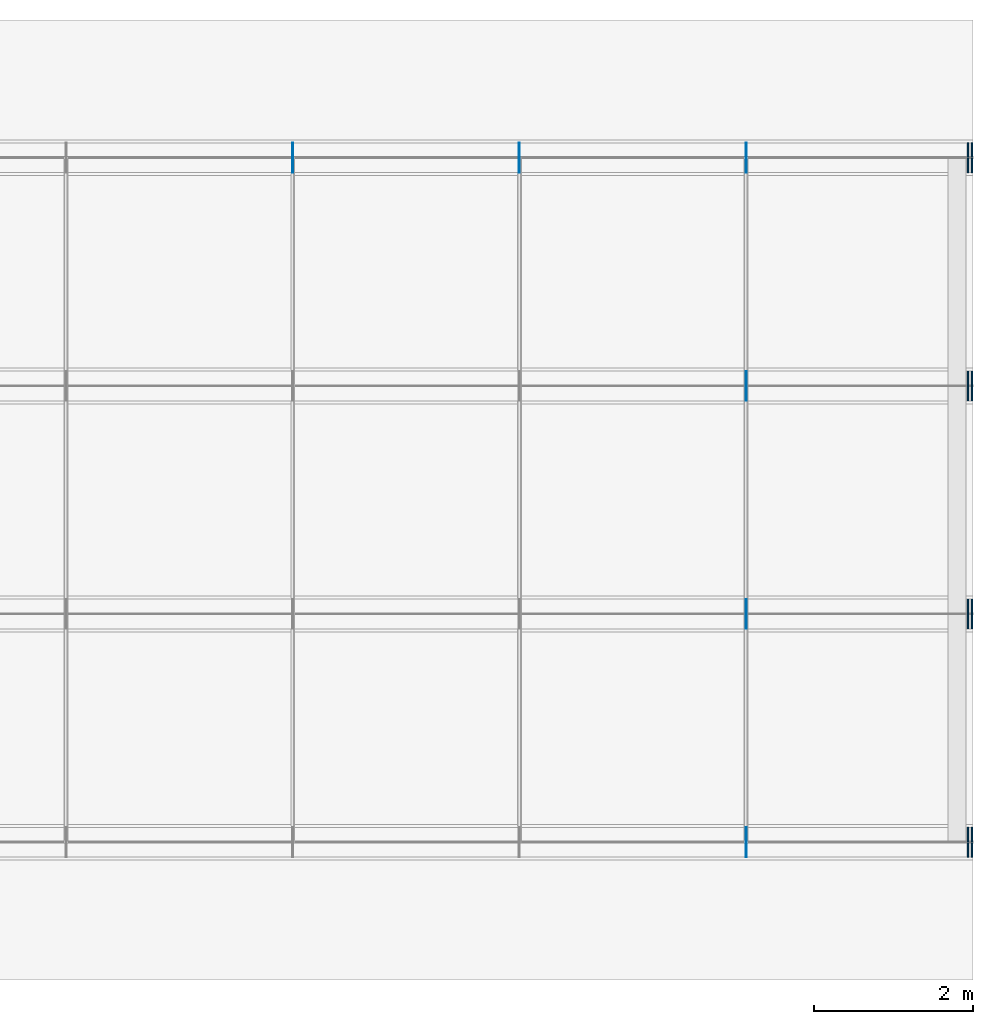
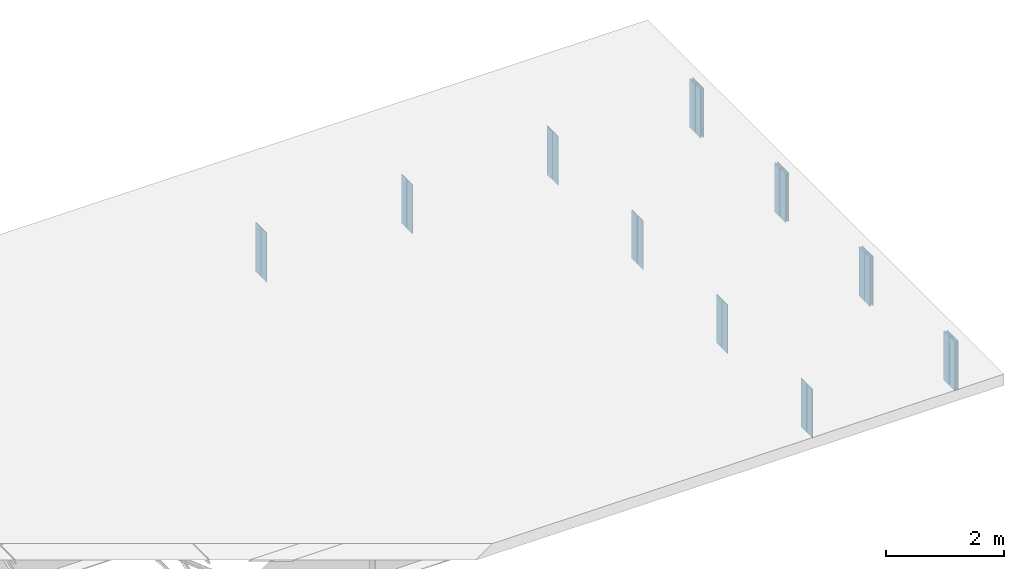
# One storey, part 12 of 12: 28 plates.
"""IFC4 building model written with IfcOpenShell, lengths in metres."""

from ifc_helpers import new_model, si_unit, frame, origin, origin_with_axes, origin_2d_with_axis, place, context, subcontext, project, spatial, rectangle, extrude, element, save


model = new_model("IFC4")

# Units and contexts
model_context = context("Model", 3, precision=1e-05, world=origin())
body_context = subcontext(model_context, "Body", "Model", "MODEL_VIEW")
ifc_project = project(units=[si_unit("LENGTHUNIT", "METRE"), si_unit("AREAUNIT", "SQUARE_METRE"), si_unit("VOLUMEUNIT", "CUBIC_METRE"), si_unit("PLANEANGLEUNIT", "RADIAN")], contexts=[model_context])

# Site, building, storey
site_placement = place(None, origin_with_axes())
site = spatial("IfcSite", under=ifc_project, at=site_placement, Name="Default Site")
building_placement = place(site_placement, origin_with_axes())
building = spatial("IfcBuilding", under=site, at=building_placement, Name="Bridge Structure")
storey_placement = place(building_placement, origin_with_axes())
storey = spatial("IfcBuildingStorey", under=building, at=storey_placement, Name="Superstructure")

# Plates
for number, where, z_axis, x_axis, name in (
    (1, (17.142, -4.2162500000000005, -0.506), (0.0, 0.0, 1.0), (1.0, 0.0, 0.0), "Intermediate Stiffener 1"),
    (2, (17.142, -4.40875, -0.506), (0.0, 0.0, 1.0), (1.0, 0.0, 0.0), "Intermediate Stiffener 1"),
):
    element("IfcPlate", number, at=place(storey_placement, frame(where, z_axis=z_axis, x_axis=x_axis)), inside=storey, Name=name, context=body_context, shape_type="SweptSolid", body=[
        extrude(rectangle(XDim=0.012, YDim=0.1825, at=origin_2d_with_axis()), origin_with_axes(), (0.0, 0.0, 1.0), 1.012),
    ])
for number, where, z_axis, x_axis, name in (
    (3, (19.990000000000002, -4.2162500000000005, -0.506), (0.0, 0.0, 1.0), (1.0, 0.0, 0.0), "End Stiffener 1"),
    (4, (19.990000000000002, -4.40875, -0.506), (0.0, 0.0, 1.0), (1.0, 0.0, 0.0), "End Stiffener 1"),
    (5, (19.94, -4.2162500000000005, -0.506), (0.0, 0.0, 1.0), (1.0, 0.0, 0.0), "End Stiffener 1"),
    (6, (19.94, -4.40875, -0.506), (0.0, 0.0, 1.0), (1.0, 0.0, 0.0), "End Stiffener 1"),
):
    element("IfcPlate", number, at=place(storey_placement, frame(where, z_axis=z_axis, x_axis=x_axis)), inside=storey, Name=name, context=body_context, shape_type="SweptSolid", body=[
        extrude(rectangle(XDim=0.02, YDim=0.1825, at=origin_2d_with_axis()), origin_with_axes(), (0.0, 0.0, 1.0), 1.012),
    ])
for number, where, z_axis, x_axis, name in (
    (7, (17.142, -1.34125, -0.506), (0.0, 0.0, 1.0), (1.0, 0.0, 0.0), "Intermediate Stiffener 2"),
    (8, (17.142, -1.53375, -0.506), (0.0, 0.0, 1.0), (1.0, 0.0, 0.0), "Intermediate Stiffener 2"),
):
    element("IfcPlate", number, at=place(storey_placement, frame(where, z_axis=z_axis, x_axis=x_axis)), inside=storey, Name=name, context=body_context, shape_type="SweptSolid", body=[
        extrude(rectangle(XDim=0.012, YDim=0.1825, at=origin_2d_with_axis()), origin_with_axes(), (0.0, 0.0, 1.0), 1.012),
    ])
for number, where, z_axis, x_axis, name in (
    (9, (19.990000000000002, -1.34125, -0.506), (0.0, 0.0, 1.0), (1.0, 0.0, 0.0), "End Stiffener 2"),
    (10, (19.990000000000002, -1.53375, -0.506), (0.0, 0.0, 1.0), (1.0, 0.0, 0.0), "End Stiffener 2"),
    (11, (19.94, -1.34125, -0.506), (0.0, 0.0, 1.0), (1.0, 0.0, 0.0), "End Stiffener 2"),
    (12, (19.94, -1.53375, -0.506), (0.0, 0.0, 1.0), (1.0, 0.0, 0.0), "End Stiffener 2"),
):
    element("IfcPlate", number, at=place(storey_placement, frame(where, z_axis=z_axis, x_axis=x_axis)), inside=storey, Name=name, context=body_context, shape_type="SweptSolid", body=[
        extrude(rectangle(XDim=0.02, YDim=0.1825, at=origin_2d_with_axis()), origin_with_axes(), (0.0, 0.0, 1.0), 1.012),
    ])
for number, where, z_axis, x_axis, name in (
    (13, (17.142, 1.53375, -0.506), (0.0, 0.0, 1.0), (1.0, 0.0, 0.0), "Intermediate Stiffener 3"),
    (14, (17.142, 1.34125, -0.506), (0.0, 0.0, 1.0), (1.0, 0.0, 0.0), "Intermediate Stiffener 3"),
):
    element("IfcPlate", number, at=place(storey_placement, frame(where, z_axis=z_axis, x_axis=x_axis)), inside=storey, Name=name, context=body_context, shape_type="SweptSolid", body=[
        extrude(rectangle(XDim=0.012, YDim=0.1825, at=origin_2d_with_axis()), origin_with_axes(), (0.0, 0.0, 1.0), 1.012),
    ])
for number, where, z_axis, x_axis, name in (
    (15, (19.990000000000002, 1.53375, -0.506), (0.0, 0.0, 1.0), (1.0, 0.0, 0.0), "End Stiffener 3"),
    (16, (19.990000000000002, 1.34125, -0.506), (0.0, 0.0, 1.0), (1.0, 0.0, 0.0), "End Stiffener 3"),
    (17, (19.94, 1.53375, -0.506), (0.0, 0.0, 1.0), (1.0, 0.0, 0.0), "End Stiffener 3"),
    (18, (19.94, 1.34125, -0.506), (0.0, 0.0, 1.0), (1.0, 0.0, 0.0), "End Stiffener 3"),
):
    element("IfcPlate", number, at=place(storey_placement, frame(where, z_axis=z_axis, x_axis=x_axis)), inside=storey, Name=name, context=body_context, shape_type="SweptSolid", body=[
        extrude(rectangle(XDim=0.02, YDim=0.1825, at=origin_2d_with_axis()), origin_with_axes(), (0.0, 0.0, 1.0), 1.012),
    ])
for number, where, z_axis, x_axis, name in (
    (19, (11.428, 4.40875, -0.506), (0.0, 0.0, 1.0), (1.0, 0.0, 0.0), "Intermediate Stiffener 4"),
    (20, (11.428, 4.2162500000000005, -0.506), (0.0, 0.0, 1.0), (1.0, 0.0, 0.0), "Intermediate Stiffener 4"),
    (21, (14.285, 4.40875, -0.506), (0.0, 0.0, 1.0), (1.0, 0.0, 0.0), "Intermediate Stiffener 4"),
    (22, (14.285, 4.2162500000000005, -0.506), (0.0, 0.0, 1.0), (1.0, 0.0, 0.0), "Intermediate Stiffener 4"),
    (23, (17.142, 4.40875, -0.506), (0.0, 0.0, 1.0), (1.0, 0.0, 0.0), "Intermediate Stiffener 4"),
    (24, (17.142, 4.2162500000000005, -0.506), (0.0, 0.0, 1.0), (1.0, 0.0, 0.0), "Intermediate Stiffener 4"),
):
    element("IfcPlate", number, at=place(storey_placement, frame(where, z_axis=z_axis, x_axis=x_axis)), inside=storey, Name=name, context=body_context, shape_type="SweptSolid", body=[
        extrude(rectangle(XDim=0.012, YDim=0.1825, at=origin_2d_with_axis()), origin_with_axes(), (0.0, 0.0, 1.0), 1.012),
    ])
for number, where, z_axis, x_axis, name in (
    (25, (19.990000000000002, 4.40875, -0.506), (0.0, 0.0, 1.0), (1.0, 0.0, 0.0), "End Stiffener 4"),
    (26, (19.990000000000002, 4.2162500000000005, -0.506), (0.0, 0.0, 1.0), (1.0, 0.0, 0.0), "End Stiffener 4"),
    (27, (19.94, 4.40875, -0.506), (0.0, 0.0, 1.0), (1.0, 0.0, 0.0), "End Stiffener 4"),
    (28, (19.94, 4.2162500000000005, -0.506), (0.0, 0.0, 1.0), (1.0, 0.0, 0.0), "End Stiffener 4"),
):
    element("IfcPlate", number, at=place(storey_placement, frame(where, z_axis=z_axis, x_axis=x_axis)), inside=storey, Name=name, context=body_context, shape_type="SweptSolid", body=[
        extrude(rectangle(XDim=0.02, YDim=0.1825, at=origin_2d_with_axis()), origin_with_axes(), (0.0, 0.0, 1.0), 1.012),
    ])

save(model, "model.ifc")
